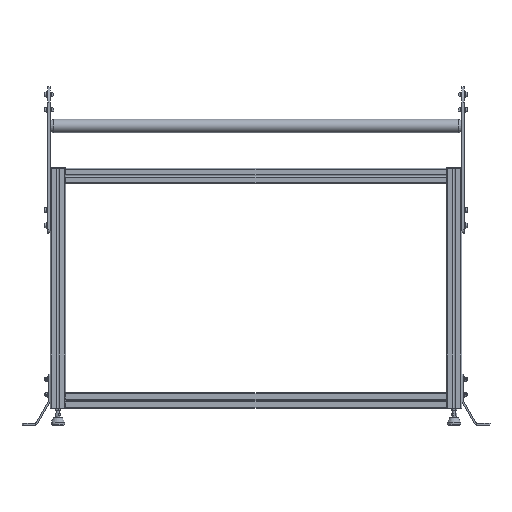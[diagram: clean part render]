
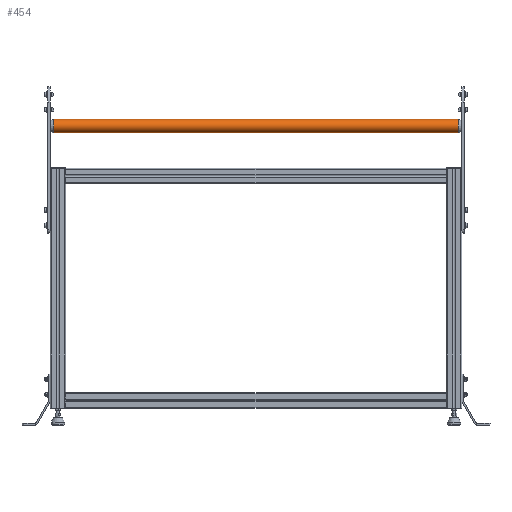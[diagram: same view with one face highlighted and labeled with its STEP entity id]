
A CAD part, top view. The second image highlights one B-rep face of the part: STEP entity #454.
In plain terms, the highlighted cylindrical face has radius 20 mm (diameter 40 mm), a full revolution.
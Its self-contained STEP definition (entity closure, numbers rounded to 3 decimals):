
#129 = FACE_OUTER_BOUND ( 'NONE', #10032, .T. ) ;
#206 = CARTESIAN_POINT ( 'NONE',  ( 594., 0., 0. ) ) ;
#454 = ADVANCED_FACE ( 'NONE', ( #11902, #129 ), #2546, .T. ) ;
#582 = EDGE_LOOP ( 'NONE', ( #5503 ) ) ;
#987 = VERTEX_POINT ( 'NONE', #7902 ) ;
#1950 = CIRCLE ( 'NONE', #8997, 20. ) ;
#2319 = DIRECTION ( 'NONE',  ( 0., 0., 1. ) ) ;
#2546 = CYLINDRICAL_SURFACE ( 'NONE', #9821, 20. ) ;
#3359 = DIRECTION ( 'NONE',  ( 0., 0., 1. ) ) ;
#5503 = ORIENTED_EDGE ( 'NONE', *, *, #9044, .F. ) ;
#6045 = DIRECTION ( 'NONE',  ( 0., 0., 1. ) ) ;
#6989 = DIRECTION ( 'NONE',  ( -1., 0., 0. ) ) ;
#7902 = CARTESIAN_POINT ( 'NONE',  ( 594., 0., 20. ) ) ;
#8997 = AXIS2_PLACEMENT_3D ( 'NONE', #206, #10683, #6045 ) ;
#9044 = EDGE_CURVE ( 'NONE', #12738, #12738, #11542, .T. ) ;
#9763 = EDGE_CURVE ( 'NONE', #987, #987, #1950, .T. ) ;
#9821 = AXIS2_PLACEMENT_3D ( 'NONE', #12930, #12857, #2319 ) ;
#10032 = EDGE_LOOP ( 'NONE', ( #14040 ) ) ;
#10254 = CARTESIAN_POINT ( 'NONE',  ( -594., 0., 20. ) ) ;
#10683 = DIRECTION ( 'NONE',  ( -1., 0., 0. ) ) ;
#11542 = CIRCLE ( 'NONE', #13472, 20. ) ;
#11902 = FACE_OUTER_BOUND ( 'NONE', #582, .T. ) ;
#12738 = VERTEX_POINT ( 'NONE', #10254 ) ;
#12857 = DIRECTION ( 'NONE',  ( -1., 0., 0. ) ) ;
#12930 = CARTESIAN_POINT ( 'NONE',  ( -613., 0., 0. ) ) ;
#13472 = AXIS2_PLACEMENT_3D ( 'NONE', #13726, #6989, #3359 ) ;
#13726 = CARTESIAN_POINT ( 'NONE',  ( -594., 0., 0. ) ) ;
#14040 = ORIENTED_EDGE ( 'NONE', *, *, #9763, .T. ) ;
